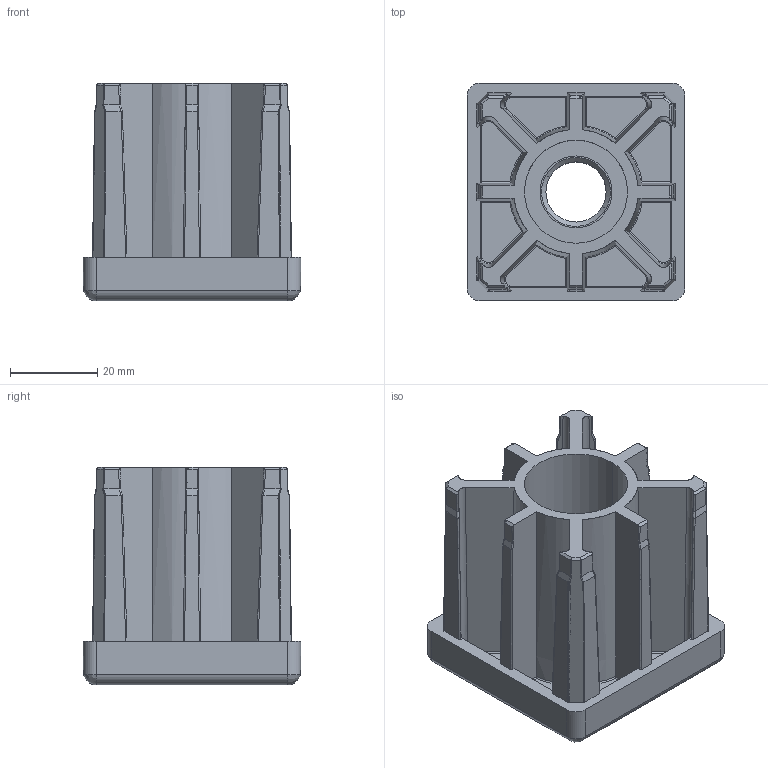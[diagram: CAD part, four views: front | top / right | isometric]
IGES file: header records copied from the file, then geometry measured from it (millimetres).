
Start section: START RECORD GO HERE.
Global section: file name: P41664_01.igs; native system: DASSAULT SYSTEMES CATIA Version 5-6 Release 2012 - www.3ds.com; preprocessor: V5-6R2012_5.22.5.0.09-11-2013.20.00; author: ghidonia; organization: MOVEXII; date: 20150401.161626; units: millimetre
Bounding box: 50 x 50 x 50 mm (x, y, z)
Surface area: 26326.9 mm2 (no closed solid volume)
Topology: 0 solids, 0 shells, 732 faces, 4160 edges, 4132 vertices
Faces by surface type: plane 550, revolution 174, bspline 8
